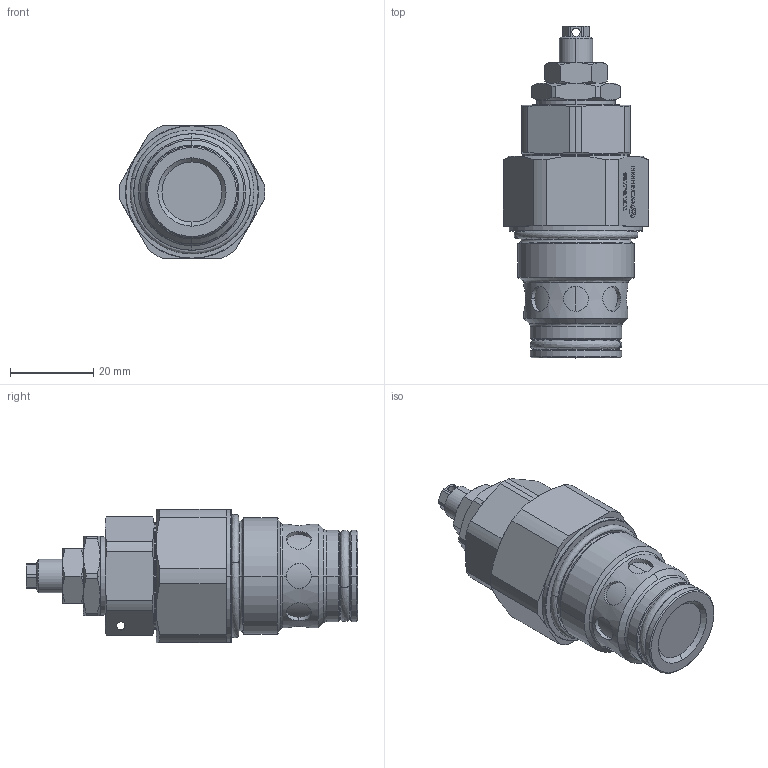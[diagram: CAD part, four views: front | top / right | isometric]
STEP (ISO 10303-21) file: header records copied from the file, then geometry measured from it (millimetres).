
FILE_DESCRIPTION (( 'STEP AP214' ), '1' );
FILE_NAME ('WVR0.M28.STEP', '2019-02-16T12:06:49', ( '' ), ( '' ), 'SwSTEP 2.0', 'SolidWorks 2015', '' );
FILE_SCHEMA (( 'AUTOMOTIVE_DESIGN' ));
Length unit declared in the file: millimetre
Products named in the file (1): WVR0.M28
Bounding box: 34.99 x 79.8 x 32 mm (x, y, z)
Volume: 40308.4 mm3; surface area: 9259.8 mm2
Topology: 3 solids, 3 shells, 424 faces, 1063 edges, 674 vertices
Faces by surface type: plane 212, cylinder 79, cone 73, bspline 60
Entity records: 20943 total; most frequent: CARTESIAN_POINT 6538, ORIENTED_EDGE 2126, DIRECTION 1807, EDGE_CURVE 1063, VERTEX_POINT 674, LINE 605, VECTOR 605, AXIS2_PLACEMENT_3D 601
